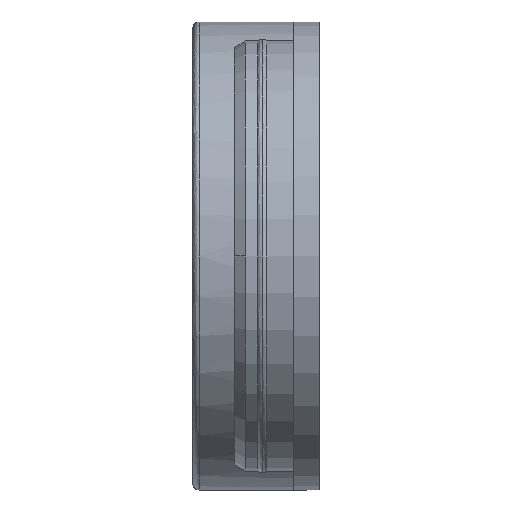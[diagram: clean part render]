
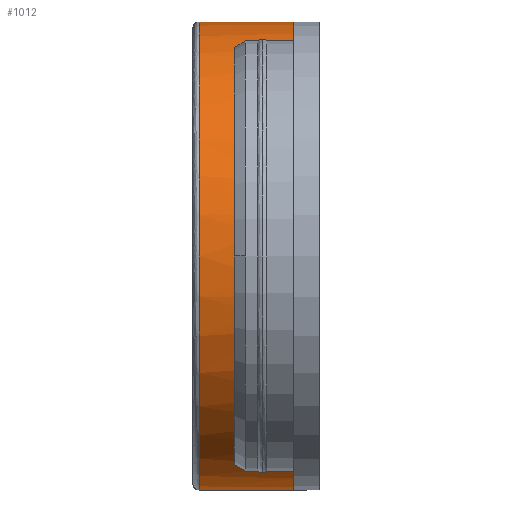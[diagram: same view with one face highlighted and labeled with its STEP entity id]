
A CAD part, left-side view. The second image highlights one B-rep face of the part: STEP entity #1012.
In plain terms, the highlighted cylindrical face has radius 18.5 mm (diameter 37 mm), a partial arc.
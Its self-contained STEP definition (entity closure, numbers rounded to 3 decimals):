
#60 = DIRECTION ( 'NONE',  ( 0., 0., -1. ) ) ;
#172 = CARTESIAN_POINT ( 'NONE',  ( 35.708, 0.8, -1.75 ) ) ;
#260 = EDGE_CURVE ( 'NONE', #3793, #1570, #2496, .T. ) ;
#342 = CARTESIAN_POINT ( 'NONE',  ( 54.125, 1., 18.5 ) ) ;
#438 = VECTOR ( 'NONE', #3345, 1000. ) ;
#452 = VECTOR ( 'NONE', #1653, 1000. ) ;
#463 = CARTESIAN_POINT ( 'NONE',  ( 54.125, 9.5, 18.5 ) ) ;
#640 = ORIENTED_EDGE ( 'NONE', *, *, #6309, .T. ) ;
#720 = CARTESIAN_POINT ( 'NONE',  ( 54.125, 10., -18.5 ) ) ;
#761 = CARTESIAN_POINT ( 'NONE',  ( 36.633, 10., -6.023 ) ) ;
#768 = ORIENTED_EDGE ( 'NONE', *, *, #5307, .T. ) ;
#781 = ORIENTED_EDGE ( 'NONE', *, *, #969, .T. ) ;
#894 = CYLINDRICAL_SURFACE ( 'NONE', #4884, 18.5 ) ;
#969 = EDGE_CURVE ( 'NONE', #3430, #5940, #4037, .T. ) ;
#1012 = ADVANCED_FACE ( 'NONE', ( #1062 ), #894, .T. ) ;
#1024 = CARTESIAN_POINT ( 'NONE',  ( 36.633, 1., -6.023 ) ) ;
#1062 = FACE_OUTER_BOUND ( 'NONE', #1998, .T. ) ;
#1095 = ORIENTED_EDGE ( 'NONE', *, *, #1135, .F. ) ;
#1135 = EDGE_CURVE ( 'NONE', #3430, #1736, #1927, .T. ) ;
#1153 = VECTOR ( 'NONE', #1973, 1000. ) ;
#1184 = VERTEX_POINT ( 'NONE', #4350 ) ;
#1224 = DIRECTION ( 'NONE',  ( 0., -1., 0. ) ) ;
#1229 = EDGE_CURVE ( 'NONE', #3684, #1184, #2646, .T. ) ;
#1298 = LINE ( 'NONE', #5008, #1153 ) ;
#1299 = ORIENTED_EDGE ( 'NONE', *, *, #4358, .F. ) ;
#1462 = VERTEX_POINT ( 'NONE', #4865 ) ;
#1530 = AXIS2_PLACEMENT_3D ( 'NONE', #5718, #2756, #6215 ) ;
#1570 = VERTEX_POINT ( 'NONE', #1825 ) ;
#1653 = DIRECTION ( 'NONE',  ( 0., -1., 0. ) ) ;
#1717 = CIRCLE ( 'NONE', #6250, 18.5 ) ;
#1736 = VERTEX_POINT ( 'NONE', #342 ) ;
#1818 = VECTOR ( 'NONE', #4716, 1000. ) ;
#1825 = CARTESIAN_POINT ( 'NONE',  ( 36.633, 1., 6.023 ) ) ;
#1881 = CARTESIAN_POINT ( 'NONE',  ( 54.125, 9.5, -18.5 ) ) ;
#1918 = EDGE_CURVE ( 'NONE', #1184, #5445, #1298, .T. ) ;
#1927 = LINE ( 'NONE', #2327, #438 ) ;
#1973 = DIRECTION ( 'NONE',  ( 0., 1., 0. ) ) ;
#1998 = EDGE_LOOP ( 'NONE', ( #1095, #781, #640, #6245, #4359, #4853, #2753, #6306, #5535, #768, #3525, #1299 ) ) ;
#2028 = VERTEX_POINT ( 'NONE', #1024 ) ;
#2327 = CARTESIAN_POINT ( 'NONE',  ( 54.125, 10., 18.5 ) ) ;
#2335 = VECTOR ( 'NONE', #4335, 1000. ) ;
#2343 = DIRECTION ( 'NONE',  ( 0., 1., 0. ) ) ;
#2360 = DIRECTION ( 'NONE',  ( 0., -1., 0. ) ) ;
#2496 = LINE ( 'NONE', #3835, #2335 ) ;
#2581 = AXIS2_PLACEMENT_3D ( 'NONE', #5336, #2360, #5830 ) ;
#2646 = CIRCLE ( 'NONE', #4441, 18.5 ) ;
#2712 = CARTESIAN_POINT ( 'NONE',  ( 54.125, 1., 0. ) ) ;
#2753 = ORIENTED_EDGE ( 'NONE', *, *, #5724, .T. ) ;
#2756 = DIRECTION ( 'NONE',  ( 0., -1., 0. ) ) ;
#2965 = DIRECTION ( 'NONE',  ( 0., 1., 0. ) ) ;
#3057 = DIRECTION ( 'NONE',  ( 0., 1., 0. ) ) ;
#3133 = LINE ( 'NONE', #3153, #452 ) ;
#3153 = CARTESIAN_POINT ( 'NONE',  ( 35.708, 10., -1.75 ) ) ;
#3222 = DIRECTION ( 'NONE',  ( 0., 0., 1. ) ) ;
#3239 = EDGE_CURVE ( 'NONE', #2028, #1462, #3563, .T. ) ;
#3345 = DIRECTION ( 'NONE',  ( 0., -1., 0. ) ) ;
#3395 = CARTESIAN_POINT ( 'NONE',  ( 54.125, 10., 0. ) ) ;
#3430 = VERTEX_POINT ( 'NONE', #463 ) ;
#3525 = ORIENTED_EDGE ( 'NONE', *, *, #260, .T. ) ;
#3563 = CIRCLE ( 'NONE', #5021, 18.5 ) ;
#3654 = VERTEX_POINT ( 'NONE', #4135 ) ;
#3684 = VERTEX_POINT ( 'NONE', #172 ) ;
#3793 = VERTEX_POINT ( 'NONE', #4321 ) ;
#3835 = CARTESIAN_POINT ( 'NONE',  ( 36.633, 10., 6.023 ) ) ;
#3886 = CARTESIAN_POINT ( 'NONE',  ( 35.708, 4.1, 1.75 ) ) ;
#4011 = AXIS2_PLACEMENT_3D ( 'NONE', #5317, #2343, #5812 ) ;
#4036 = CIRCLE ( 'NONE', #1530, 18.5 ) ;
#4037 = CIRCLE ( 'NONE', #2581, 18.5 ) ;
#4135 = CARTESIAN_POINT ( 'NONE',  ( 35.708, 4.1, -1.75 ) ) ;
#4321 = CARTESIAN_POINT ( 'NONE',  ( 36.633, 4.1, 6.023 ) ) ;
#4335 = DIRECTION ( 'NONE',  ( 0., -1., 0. ) ) ;
#4350 = CARTESIAN_POINT ( 'NONE',  ( 35.708, 0.8, 1.75 ) ) ;
#4358 = EDGE_CURVE ( 'NONE', #1736, #1570, #4036, .T. ) ;
#4359 = ORIENTED_EDGE ( 'NONE', *, *, #5889, .T. ) ;
#4387 = DIRECTION ( 'NONE',  ( 0., -1., 0. ) ) ;
#4441 = AXIS2_PLACEMENT_3D ( 'NONE', #6017, #3057, #60 ) ;
#4716 = DIRECTION ( 'NONE',  ( 0., 1., 0. ) ) ;
#4730 = CARTESIAN_POINT ( 'NONE',  ( 36.633, 4.1, -6.023 ) ) ;
#4756 = VECTOR ( 'NONE', #1224, 1000. ) ;
#4853 = ORIENTED_EDGE ( 'NONE', *, *, #4954, .T. ) ;
#4865 = CARTESIAN_POINT ( 'NONE',  ( 54.125, 1., -18.5 ) ) ;
#4884 = AXIS2_PLACEMENT_3D ( 'NONE', #3395, #4387, #6357 ) ;
#4931 = LINE ( 'NONE', #720, #4756 ) ;
#4954 = EDGE_CURVE ( 'NONE', #5903, #3654, #1717, .T. ) ;
#5008 = CARTESIAN_POINT ( 'NONE',  ( 35.708, 10., 1.75 ) ) ;
#5021 = AXIS2_PLACEMENT_3D ( 'NONE', #2712, #6172, #3222 ) ;
#5307 = EDGE_CURVE ( 'NONE', #5445, #3793, #6294, .T. ) ;
#5317 = CARTESIAN_POINT ( 'NONE',  ( 54.125, 4.1, 0. ) ) ;
#5336 = CARTESIAN_POINT ( 'NONE',  ( 54.125, 9.5, 0. ) ) ;
#5445 = VERTEX_POINT ( 'NONE', #3886 ) ;
#5535 = ORIENTED_EDGE ( 'NONE', *, *, #1918, .T. ) ;
#5718 = CARTESIAN_POINT ( 'NONE',  ( 54.125, 1., 0. ) ) ;
#5724 = EDGE_CURVE ( 'NONE', #3654, #3684, #3133, .T. ) ;
#5812 = DIRECTION ( 'NONE',  ( 0., 0., -1. ) ) ;
#5830 = DIRECTION ( 'NONE',  ( 0., 0., -1. ) ) ;
#5889 = EDGE_CURVE ( 'NONE', #2028, #5903, #5943, .T. ) ;
#5903 = VERTEX_POINT ( 'NONE', #4730 ) ;
#5924 = CARTESIAN_POINT ( 'NONE',  ( 54.125, 4.1, 0. ) ) ;
#5940 = VERTEX_POINT ( 'NONE', #1881 ) ;
#5943 = LINE ( 'NONE', #761, #1818 ) ;
#6017 = CARTESIAN_POINT ( 'NONE',  ( 54.125, 0.8, 0. ) ) ;
#6172 = DIRECTION ( 'NONE',  ( 0., -1., 0. ) ) ;
#6215 = DIRECTION ( 'NONE',  ( 0., 0., 1. ) ) ;
#6245 = ORIENTED_EDGE ( 'NONE', *, *, #3239, .F. ) ;
#6250 = AXIS2_PLACEMENT_3D ( 'NONE', #5924, #2965, #6427 ) ;
#6294 = CIRCLE ( 'NONE', #4011, 18.5 ) ;
#6306 = ORIENTED_EDGE ( 'NONE', *, *, #1229, .T. ) ;
#6309 = EDGE_CURVE ( 'NONE', #5940, #1462, #4931, .T. ) ;
#6357 = DIRECTION ( 'NONE',  ( 0., 0., -1. ) ) ;
#6427 = DIRECTION ( 'NONE',  ( 0., 0., -1. ) ) ;
